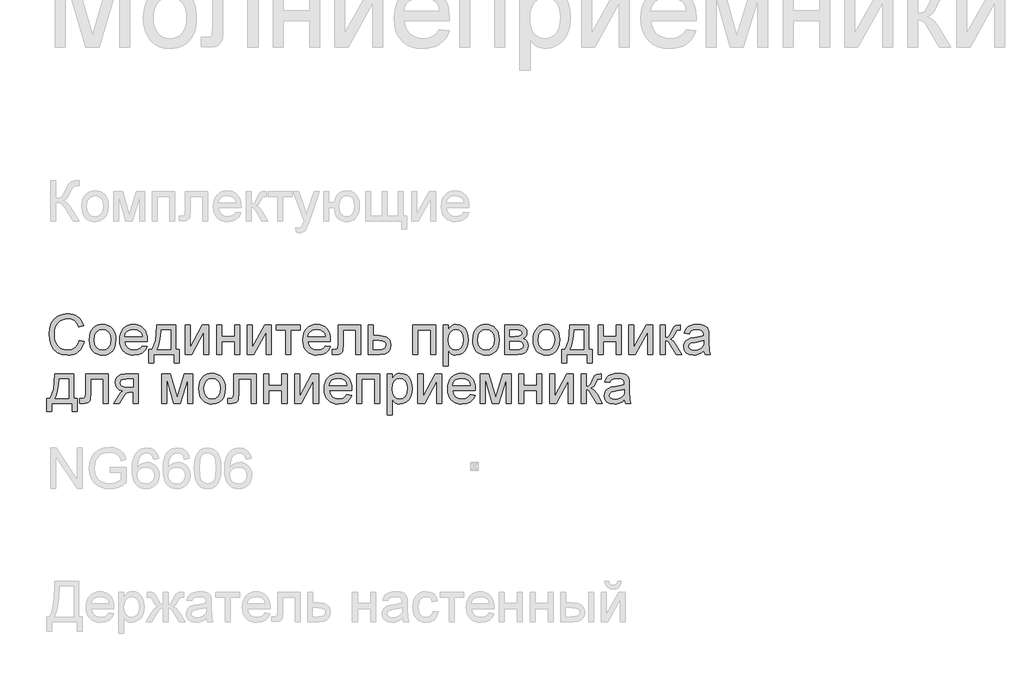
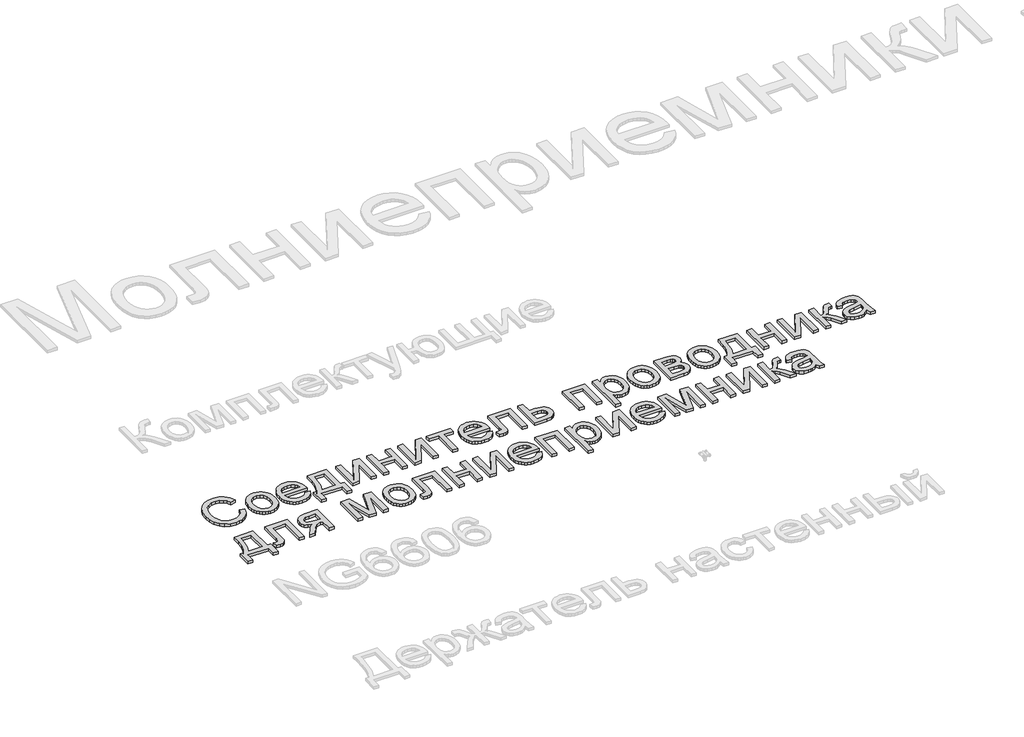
# One storey, part 60 of 124: 1 proxy.
"""IFC4 building model written with IfcOpenShell, lengths in millimetres."""

import ifcopenshell
import ifcopenshell.guid

model = None  # the IFC model being written
_history = None  # IfcOwnerHistory: only IFC2X3 demands one
_inside = {}  # id of a spatial element -> (the spatial element, [elements in it])
_under = {}  # id of a project, library or spatial element -> (it, [spatial elements below it])
_declared = {}  # id of a project -> (the project, [libraries it declares])
_typed = {}  # id of a type object -> (the type object, [elements of that type])
_made_of = {}  # id of a material, layer set ... -> (it, [elements and type objects made of it])


def new_model(schema):
    """Start an empty IFC model of exactly this schema.

    Asked for "IFC4X3", IfcOpenShell would pick the latest addendum, in which some entities
    have other attributes; the version numbers below select the first issue.
    IFC2X3 requires an IfcOwnerHistory on every rooted entity: one is made here for all.
    """
    global model, _history
    if schema == "IFC4X3":
        model = ifcopenshell.file(schema_version=(4, 3, 0, 0))
    else:
        model = ifcopenshell.file(schema=schema)
    _inside.clear()
    _under.clear()
    _declared.clear()
    _typed.clear()
    _made_of.clear()
    _history = None
    if model.schema == "IFC2X3":
        org = make("IfcOrganization", Name="unknown")
        user = make(
            "IfcPersonAndOrganization",
            ThePerson=make("IfcPerson", FamilyName="unknown"),
            TheOrganization=org,
        )
        app = make(
            "IfcApplication",
            ApplicationDeveloper=org,
            Version="unknown",
            ApplicationFullName="unknown",
            ApplicationIdentifier="unknown",
        )
        _history = make(
            "IfcOwnerHistory",
            OwningUser=user,
            OwningApplication=app,
            ChangeAction="ADDED",
            CreationDate=0,
        )
    return model


def make(cls, **values):
    """One entity of the class cls with the attributes given. An attribute that is None is left unset."""
    return model.create_entity(
        cls, **{name: value for name, value in values.items() if value is not None}
    )


def rooted(cls, **values):
    """An entity with a GlobalId (a new one), such as an element, a storey or a relation."""
    return make(cls, GlobalId=ifcopenshell.guid.new(), OwnerHistory=_history, **values)


def si_unit(unit_type, name, prefix=None):
    """IfcSIUnit, for example si_unit("LENGTHUNIT", "METRE", prefix="MILLI")."""
    return make("IfcSIUnit", UnitType=unit_type, Prefix=prefix, Name=name)


def assignment(units):
    """IfcUnitAssignment: the units of a project."""
    return None if units is None else make("IfcUnitAssignment", Units=units)


def point(xyz):
    """IfcCartesianPoint."""
    return None if xyz is None else make("IfcCartesianPoint", Coordinates=xyz)


def direction(xyz):
    """IfcDirection."""
    return None if xyz is None else make("IfcDirection", DirectionRatios=xyz)


def frame(location, z_axis=None, x_axis=None):
    """IfcAxis2Placement3D, a coordinate frame: its origin and axes. An axis left out is left unset."""
    return make(
        "IfcAxis2Placement3D",
        Location=point(location),
        Axis=direction(z_axis),
        RefDirection=direction(x_axis),
    )


def origin():
    """The frame at (0, 0, 0) with its axes left unset."""
    return frame((0.0, 0.0, 0.0))


def origin_with_axes():
    """The frame at (0, 0, 0) with the z axis (0, 0, 1) and the x axis (1, 0, 0) written out."""
    return frame((0.0, 0.0, 0.0), z_axis=(0.0, 0.0, 1.0), x_axis=(1.0, 0.0, 0.0))


def place(relative_to, where):
    """IfcLocalPlacement: puts the frame where relative to a parent placement (None: the world)."""
    return make(
        "IfcLocalPlacement", PlacementRelTo=relative_to, RelativePlacement=where
    )


def context(
    kind, dimensions, precision=None, world=None, true_north=None, identifier=None
):
    """IfcGeometricRepresentationContext, for example the 3D "Model" context."""
    return make(
        "IfcGeometricRepresentationContext",
        ContextIdentifier=identifier,
        ContextType=kind,
        CoordinateSpaceDimension=dimensions,
        Precision=precision,
        WorldCoordinateSystem=world,
        TrueNorth=true_north,
    )


def project(units=None, contexts=None):
    """IfcProject with its units and contexts."""
    return rooted(
        "IfcProject",
        Name="project",
        RepresentationContexts=contexts,
        UnitsInContext=assignment(units),
    )


def spatial(cls, under=None, at=None, **own):
    """A site, building, storey or space (cls), placed at a placement, below another one or the project."""
    s = rooted(cls, ObjectPlacement=at, **own)
    if under is not None:
        _under.setdefault(under.id(), (under, []))[1].append(s)
    return s


def polyline(points):
    """IfcPolyline through the points."""
    return make("IfcPolyline", Points=[point(p) for p in points])


def outline(outer, holes=None, kind="AREA"):
    """IfcArbitraryClosedProfileDef: a profile drawn as a closed curve; with holes, ...WithVoids."""
    if holes is None:
        return make("IfcArbitraryClosedProfileDef", ProfileType=kind, OuterCurve=outer)
    return make(
        "IfcArbitraryProfileDefWithVoids",
        ProfileType=kind,
        OuterCurve=outer,
        InnerCurves=holes,
    )


def extrude(swept, where, along, depth):
    """IfcExtrudedAreaSolid: the profile swept, set in the frame where, extruded along a direction by depth."""
    return make(
        "IfcExtrudedAreaSolid",
        SweptArea=swept,
        Position=where,
        ExtrudedDirection=direction(along),
        Depth=depth,
    )


def shape(context_of_items, identifier, shape_type, items):
    """IfcShapeRepresentation: the items that make up one representation, for example the "Body"."""
    return make(
        "IfcShapeRepresentation",
        ContextOfItems=context_of_items,
        RepresentationIdentifier=identifier,
        RepresentationType=shape_type,
        Items=items,
    )


def made_of(thing, what):
    """Note that an element or type object is made of a material, layer set ...; save() writes the relation."""
    if what is not None:
        _made_of.setdefault(what.id(), (what, []))[1].append(thing)
    return thing


def element(
    cls,
    number,
    at=None,
    inside=None,
    cuts=None,
    type_object=None,
    material=None,
    context=None,
    identifier="Body",
    shape_type=None,
    held_by="IfcProductDefinitionShape",
    body=None,
    shapes=None,
    **own,
):
    """One element of the class cls, such as IfcWall. Its Tag is "e" and its number.

    at: its placement. inside: the storey or other place that contains it. cuts: it is an
    opening in that element (IfcRelVoidsElement). A single representation is given by context,
    identifier, shape_type and body (its items); several are given by shapes. held_by: the class
    of the entity that holds the representations. save() writes the other relations.
    """
    e = rooted(cls, Tag="e%d" % number, ObjectPlacement=at, **own)
    if body is not None:
        shapes = [shape(context, identifier, shape_type, body)]
    if shapes is not None:
        e.Representation = make(held_by, Representations=shapes)
    if inside is not None:
        _inside.setdefault(inside.id(), (inside, []))[1].append(e)
    if cuts is not None:
        rooted(
            "IfcRelVoidsElement", RelatingBuildingElement=cuts, RelatedOpeningElement=e
        )
    if type_object is not None:
        _typed.setdefault(type_object.id(), (type_object, []))[1].append(e)
    return made_of(e, material)


def aggregate(whole, parts):
    """IfcRelAggregates: a whole, such as a stair, and the parts it consists of."""
    return rooted("IfcRelAggregates", RelatingObject=whole, RelatedObjects=parts)


def save(model, path):
    """Write the relations noted so far, then the file.

    IfcRelAggregates (storeys below a building ...), IfcRelContainedInSpatialStructure (elements
    in a storey), IfcRelDefinesByType, IfcRelAssociatesMaterial and IfcRelDeclares: one each for
    every whole, place, type object, material and project.
    """
    for whole, parts in _under.values():
        aggregate(whole, parts)
    for where, things in _inside.values():
        rooted(
            "IfcRelContainedInSpatialStructure",
            RelatedElements=things,
            RelatingStructure=where,
        )
    for kind, things in _typed.values():
        rooted("IfcRelDefinesByType", RelatedObjects=things, RelatingType=kind)
    for what, things in _made_of.values():
        rooted("IfcRelAssociatesMaterial", RelatedObjects=things, RelatingMaterial=what)
    for by, libraries in _declared.values():
        rooted("IfcRelDeclares", RelatingContext=by, RelatedDefinitions=libraries)
    model.write(path)


model = new_model("IFC4")

# Units and contexts
model_context = context("Model", 3, world=origin())
ifc_project = project(units=[si_unit("LENGTHUNIT", "METRE", prefix="MILLI")], contexts=[model_context])

# Site, building, storey
site = spatial("IfcSite", under=ifc_project)
building = spatial("IfcBuilding", under=site)
storey = spatial("IfcBuildingStorey", under=building, Name="Этаж 01", Elevation=0.0)

# Proxy
placement = place(None, origin())
element("IfcBuildingElementProxy", 1, Name="300", ObjectType="300", at=placement, inside=storey, context=model_context, shape_type="SweptSolid", body=[
    extrude(outline(polyline([(1511.7220969, -50967.371125), (1549.3932132, -50977.0832097), (1541.9390043, -51000.510395), (1532.0107889, -51020.9807288), (1519.6085672, -51038.494211), (1504.732339, -51053.0508417), (1487.7177967, -51064.494271), (1468.9006327, -51072.6681491), (1448.2808468, -51077.5724759), (1425.8584392, -51079.2072515), (1382.1632553, -51074.2592387), (1347.4627861, -51059.4152002), (1320.8649178, -51035.1901708), (1301.4775367, -51002.0991854), (1289.6409335, -50963.1956644), (1285.6953991, -50921.5330284), (1290.1559683, -50877.5895241), (1303.5376758, -50839.6424963), (1325.141546, -50808.8967585), (1354.268603, -50786.5571244), (1388.8127223, -50772.9546876), (1426.6677796, -50768.420542), (1467.9717306, -50774.2882598), (1485.9404668, -50781.6229071), (1502.1203768, -50791.8914133), (1516.2447462, -50804.8224654), (1528.0468605, -50820.1447505), (1544.6843237, -50857.9630196), (1507.0132074, -50866.9393403), (1493.9533965, -50839.4677523), (1476.1111198, -50820.6229971), (1453.2656479, -50809.724493), (1425.1962517, -50806.0916583), (1392.8410302, -50810.1199662), (1366.261556, -50822.2048897), (1346.0924256, -50841.0772361), (1332.9682355, -50865.4678123), (1325.7669454, -50893.0405679), (1323.3665154, -50921.459452), (1326.2084038, -50956.2610888), (1334.734069, -50986.353836), (1349.2654078, -51010.5880624), (1370.124317, -51027.8141368), (1395.1310956, -51038.1056356), (1422.1060429, -51041.5361352), (1453.5507564, -51036.8640339), (1479.7531515, -51022.8477299), (1499.5360058, -50999.634376), (1511.7220969, -50967.371125)])), origin_with_axes(), (0.0, 0.0, 1.0), 20.0),
    extrude(outline(polyline([(1587.0643295, -50963.8394579), (1589.1014761, -50935.1768519), (1595.2129157, -50910.4781745), (1605.3986485, -50889.7434255), (1619.6586743, -50872.972605), (1634.0152692, -50862.2534434), (1649.8617861, -50854.5968994), (1667.1982251, -50850.002973), (1686.0245862, -50848.4716642), (1706.8076197, -50850.336366), (1725.5994919, -50855.9304716), (1742.4002027, -50865.2539809), (1757.2097523, -50878.306894), (1769.2969751, -50894.6477523), (1777.9307057, -50913.8350977), (1783.110944, -50935.8689299), (1784.8376901, -50960.7492491), (1781.7842696, -50998.8066415), (1772.6240079, -51027.7773486), (1757.6236195, -51049.4731893), (1737.049819, -51065.7059823), (1712.6132574, -51075.8319342), (1686.0245862, -51079.2072515), (1664.9380501, -51077.3494475), (1645.971434, -51071.7760352), (1629.1247379, -51062.4870149), (1614.3979618, -51049.4823863), (1602.4394977, -51032.9828788), (1593.8977376, -51013.2092216), (1588.7726815, -50990.1614146), (1587.0643295, -50963.8394579)]), holes=[polyline([(1624.7354458, -50963.7658815), (1629.0948475, -50997.8593454), (1642.1730524, -51022.1487541), (1661.8547391, -51036.6892899), (1686.0245862, -51041.5361352), (1710.0840687, -51036.6616988), (1729.7289673, -51022.0383895), (1742.8071722, -50997.427084), (1747.1665738, -50962.5886591), (1742.779581, -50929.4884766), (1729.6186027, -50905.5301616), (1709.946113, -50890.9896258), (1686.0245862, -50886.1427805), (1661.8547391, -50890.9712317), (1642.1730524, -50905.4565852), (1629.0948475, -50929.6908117), (1624.7354458, -50963.7658815)])]), origin_with_axes(), (0.0, 0.0, 1.0), 20.0),
    extrude(outline(polyline([(1982.1695923, -51008.5739085), (2019.1049447, -51013.282798), (2005.7968135, -51041.1130709), (1984.5608253, -51061.9167978), (1955.8752267, -51074.8846381), (1920.2182644, -51079.2072515), (1896.8439621, -51077.3425497), (1876.0172426, -51071.7484441), (1857.738106, -51062.4249348), (1842.0065522, -51049.3720217), (1829.3560101, -51032.9529884), (1820.3199086, -51013.5311184), (1814.8982477, -50991.1064115), (1813.0910274, -50965.6788678), (1814.9166418, -50939.3891007), (1820.393485, -50916.2171336), (1829.521557, -50896.1629663), (1842.3008578, -50879.226599), (1857.9910249, -50865.771315), (1875.8516957, -50856.1603979), (1895.8828704, -50850.3938476), (1918.0845488, -50848.4716642), (1939.5711566, -50850.3892491), (1959.0022237, -50856.1420038), (1976.3777502, -50865.7299283), (1991.697736, -50879.1530226), (2004.2034246, -50896.0526017), (2013.1360593, -50916.0699808), (2018.4956401, -50939.2051598), (2020.282167, -50965.4581386), (2020.0614379, -50975.6116817), (1850.7621437, -50975.6116817), (1857.282852, -51003.8098366), (1872.4303932, -51024.5399871), (1894.2917807, -51037.2870982), (1920.9540284, -51041.5361352), (1941.0035971, -51039.5679666), (1957.8893807, -51033.6634605), (1971.6113791, -51023.4547352), (1982.1695923, -51008.5739085)]), holes=[polyline([(1850.7621437, -50937.9405654), (1982.6110507, -50937.9405654), (1977.5158851, -50918.0381495), (1967.5278889, -50903.8011162), (1945.5653338, -50890.5573644), (1917.937396, -50886.1427805), (1892.5443413, -50889.6652506), (1871.5474764, -50900.2326609), (1856.9517582, -50916.7045772), (1850.7621437, -50937.9405654)])]), origin_with_axes(), (0.0, 0.0, 1.0), 20.0),
    extrude(outline(polyline([(2090.9155101, -50853.1805537), (2232.1821963, -50853.1805537), (2232.1821963, -51036.8272457), (2260.4355335, -51036.8272457), (2260.4355335, -51135.713926), (2222.7644172, -51135.713926), (2222.7644172, -51074.498362), (2067.3710624, -51074.498362), (2067.3710624, -51135.713926), (2029.6999461, -51135.713926), (2029.6999461, -51036.8272457), (2053.2443938, -51036.8272457), (2070.3601036, -51005.897567), (2082.3438596, -50964.979892), (2089.1956618, -50914.074221), (2090.9155101, -50853.1805537)]), holes=[polyline([(2123.8777369, -50890.85167), (2120.7875281, -50936.9748752), (2115.048569, -50976.6785395), (2106.6608595, -51009.962663), (2095.6243997, -51036.8272457), (2194.51108, -51036.8272457), (2194.51108, -50890.85167), (2123.8777369, -50890.85167)])]), origin_with_axes(), (0.0, 0.0, 1.0), 20.0),
    extrude(outline(polyline([(2302.8155393, -50853.1805537), (2340.4866556, -50853.1805537), (2340.4866556, -51021.9648131), (2433.0457656, -50853.1805537), (2481.7533418, -50853.1805537), (2481.7533418, -51074.498362), (2444.0822255, -51074.498362), (2444.0822255, -50906.7441722), (2352.1117267, -51074.498362), (2302.8155393, -51074.498362), (2302.8155393, -50853.1805537)])), origin_with_axes(), (0.0, 0.0, 1.0), 20.0),
    extrude(outline(polyline([(2538.2600163, -50853.1805537), (2575.9311326, -50853.1805537), (2575.9311326, -50937.9405654), (2674.8178129, -50937.9405654), (2674.8178129, -50853.1805537), (2712.4889292, -50853.1805537), (2712.4889292, -51074.498362), (2674.8178129, -51074.498362), (2674.8178129, -50975.6116817), (2575.9311326, -50975.6116817), (2575.9311326, -51074.498362), (2538.2600163, -51074.498362), (2538.2600163, -50853.1805537)])), origin_with_axes(), (0.0, 0.0, 1.0), 20.0),
    extrude(outline(polyline([(2768.9956036, -50853.1805537), (2806.6667199, -50853.1805537), (2806.6667199, -51021.9648131), (2899.2258299, -50853.1805537), (2947.9334061, -50853.1805537), (2947.9334061, -51074.498362), (2910.2622898, -51074.498362), (2910.2622898, -50906.7441722), (2818.291791, -51074.498362), (2768.9956036, -51074.498362), (2768.9956036, -50853.1805537)])), origin_with_axes(), (0.0, 0.0, 1.0), 20.0),
    extrude(outline(polyline([(2985.6045224, -50853.1805537), (3164.5423248, -50853.1805537), (3164.5423248, -50890.85167), (3093.9089818, -50890.85167), (3093.9089818, -51074.498362), (3056.2378655, -51074.498362), (3056.2378655, -50890.85167), (2985.6045224, -50890.85167), (2985.6045224, -50853.1805537)])), origin_with_axes(), (0.0, 0.0, 1.0), 20.0),
    extrude(outline(polyline([(3352.456448, -51008.5739085), (3389.3918003, -51013.282798), (3376.0836691, -51041.1130709), (3354.847681, -51061.9167978), (3326.1620824, -51074.8846381), (3290.50512, -51079.2072515), (3267.1308177, -51077.3425497), (3246.3040983, -51071.7484441), (3228.0249616, -51062.4249348), (3212.2934078, -51049.3720217), (3199.6428657, -51032.9529884), (3190.6067642, -51013.5311184), (3185.1851033, -50991.1064115), (3183.377883, -50965.6788678), (3185.2034974, -50939.3891007), (3190.6803406, -50916.2171336), (3199.8084126, -50896.1629663), (3212.5877134, -50879.226599), (3228.2778805, -50865.771315), (3246.1385514, -50856.1603979), (3266.169726, -50850.3938476), (3288.3714044, -50848.4716642), (3309.8580122, -50850.3892491), (3329.2890793, -50856.1420038), (3346.6646058, -50865.7299283), (3361.9845917, -50879.1530226), (3374.4902802, -50896.0526017), (3383.4229149, -50916.0699808), (3388.7824957, -50939.2051598), (3390.5690227, -50965.4581386), (3390.3482935, -50975.6116817), (3221.0489993, -50975.6116817), (3227.5697077, -51003.8098366), (3242.7172488, -51024.5399871), (3264.5786364, -51037.2870982), (3291.240884, -51041.5361352), (3311.2904527, -51039.5679666), (3328.1762363, -51033.6634605), (3341.8982347, -51023.4547352), (3352.456448, -51008.5739085)]), holes=[polyline([(3221.0489993, -50937.9405654), (3352.8979064, -50937.9405654), (3347.8027407, -50918.0381495), (3337.8147446, -50903.8011162), (3315.8521895, -50890.5573644), (3288.2242516, -50886.1427805), (3262.8311969, -50889.6652506), (3241.834332, -50900.2326609), (3227.2386139, -50916.7045772), (3221.0489993, -50937.9405654)])]), origin_with_axes(), (0.0, 0.0, 1.0), 20.0),
    extrude(outline(polyline([(3447.0756971, -50853.1805537), (3616.5957205, -50853.1805537), (3616.5957205, -51074.2776328), (3578.9246042, -51074.2776328), (3578.9246042, -50890.85167), (3484.7468134, -50890.85167), (3484.7468134, -50996.4338026), (3482.2084277, -51045.1413788), (3477.4535529, -51056.1686416), (3468.2657001, -51065.7059823), (3454.3229724, -51072.3002671), (3435.3034733, -51074.498362), (3404.6956913, -51072.5853756), (3404.6956913, -51036.8272457), (3421.5446867, -51036.8272457), (3438.5776231, -51034.5095891), (3445.38344, -51027.1519492), (3447.0756971, -50994.3000871), (3447.0756971, -50853.1805537)])), origin_with_axes(), (0.0, 0.0, 1.0), 20.0),
    extrude(outline(polyline([(3673.102395, -50853.1805537), (3710.7735113, -50853.1805537), (3710.7735113, -50933.2316759), (3754.1835867, -50933.2316759), (3791.8179148, -50937.9497624), (3806.965456, -50943.8473707), (3819.6665819, -50952.1040222), (3829.7097603, -50962.4346085), (3836.8834592, -50974.554021), (3842.6224184, -51004.1593245), (3837.7387849, -51031.1158777), (3823.0878844, -51053.8601821), (3811.8559872, -51062.8893858), (3797.6948297, -51069.338817), (3760.5847334, -51074.498362), (3673.102395, -51074.498362), (3673.102395, -50853.1805537)]), holes=[polyline([(3710.7735113, -51036.8272457), (3745.94303, -51036.8272457), (3773.230677, -51034.84988), (3791.3764564, -51028.9177828), (3801.5575906, -51018.7918309), (3804.951302, -51004.2329009), (3802.4405074, -50991.9272482), (3794.9081236, -50981.0563352), (3778.767301, -50973.4411779), (3750.4311904, -50970.9027922), (3710.7735113, -50970.9027922), (3710.7735113, -51036.8272457)])]), origin_with_axes(), (0.0, 0.0, 1.0), 20.0),
    extrude(outline(polyline([(4007.4335522, -50853.1805537), (4176.9535756, -50853.1805537), (4176.9535756, -51074.498362), (4139.2824593, -51074.498362), (4139.2824593, -50890.85167), (4045.1046685, -50890.85167), (4045.1046685, -51074.498362), (4007.4335522, -51074.498362), (4007.4335522, -50853.1805537)])), origin_with_axes(), (0.0, 0.0, 1.0), 20.0),
    extrude(outline(polyline([(4233.46025, -51159.2583737), (4233.46025, -50853.1805537), (4271.1313663, -50853.1805537), (4271.1313663, -50890.115906), (4283.418625, -50871.8965502), (4297.1774116, -50858.8827246), (4313.2170666, -50851.0744293), (4332.3469303, -50848.4716642), (4357.8227585, -50852.1136959), (4380.0980133, -50863.0397912), (4398.2345957, -50880.5877623), (4411.2944065, -50904.0954218), (4419.1854753, -50931.8521184), (4421.8158316, -50962.1472007), (4418.8451845, -50994.3644664), (4409.9332431, -51023.1788237), (4395.3651161, -51047.1279416), (4375.425912, -51064.7494891), (4352.203361, -51075.5928109), (4327.7851936, -51079.2072515), (4310.4671487, -51076.7884274), (4295.0069078, -51069.5319551), (4281.772353, -51058.5782687), (4271.1313663, -51045.0678024), (4271.1313663, -51159.2583737), (4233.46025, -51159.2583737)]), holes=[polyline([(4271.1313663, -50965.6052914), (4275.2056594, -50999.3768586), (4287.4285387, -51022.9948827), (4305.4639535, -51036.9008221), (4326.9758532, -51041.5361352), (4348.8372408, -51036.7352752), (4367.3325081, -51022.3326951), (4379.9416635, -50997.8501483), (4384.1447153, -50962.8093883), (4380.042831, -50929.2217621), (4367.7371783, -50905.2726442), (4349.7293546, -50890.9252464), (4328.5209576, -50886.1427805), (4307.2297871, -50891.2287491), (4288.5321847, -50906.4866548), (4275.4815709, -50931.4382511), (4271.1313663, -50965.6052914)])]), origin_with_axes(), (0.0, 0.0, 1.0), 20.0),
    extrude(outline(polyline([(4454.7780583, -50963.8394579), (4456.8152049, -50935.1768519), (4462.9266445, -50910.4781745), (4473.1123773, -50889.7434255), (4487.3724031, -50872.972605), (4501.728998, -50862.2534434), (4517.5755149, -50854.5968994), (4534.9119539, -50850.002973), (4553.738315, -50848.4716642), (4574.5213485, -50850.336366), (4593.3132207, -50855.9304716), (4610.1139315, -50865.2539809), (4624.9234811, -50878.306894), (4637.0107039, -50894.6477523), (4645.6444345, -50913.8350977), (4650.8246728, -50935.8689299), (4652.5514189, -50960.7492491), (4649.4979984, -50998.8066415), (4640.3377367, -51027.7773486), (4625.3373483, -51049.4731893), (4604.7635478, -51065.7059823), (4580.3269862, -51075.8319342), (4553.738315, -51079.2072515), (4532.6517789, -51077.3494475), (4513.6851628, -51071.7760352), (4496.8384667, -51062.4870149), (4482.1116906, -51049.4823863), (4470.1532265, -51032.9828788), (4461.6114664, -51013.2092216), (4456.4864103, -50990.1614146), (4454.7780583, -50963.8394579)]), holes=[polyline([(4492.4491746, -50963.7658815), (4496.8085763, -50997.8593454), (4509.8867812, -51022.1487541), (4529.5684679, -51036.6892899), (4553.738315, -51041.5361352), (4577.7977975, -51036.6616988), (4597.4426961, -51022.0383895), (4610.520901, -50997.427084), (4614.8803026, -50962.5886591), (4610.4933098, -50929.4884766), (4597.3323315, -50905.5301616), (4577.6598418, -50890.9896258), (4553.738315, -50886.1427805), (4529.5684679, -50890.9712317), (4509.8867812, -50905.4565852), (4496.8085763, -50929.6908117), (4492.4491746, -50963.7658815)])]), origin_with_axes(), (0.0, 0.0, 1.0), 20.0),
    extrude(outline(polyline([(4694.9314248, -50853.1805537), (4777.9256029, -50853.1805537), (4804.6062446, -50854.4405495), (4823.4326057, -50858.220537), (4837.2833628, -50865.3574477), (4849.0371926, -50876.6882132), (4857.0662171, -50891.4494783), (4859.7425586, -50908.8778878), (4858.1238778, -50922.9217829), (4853.2678355, -50935.0342976), (4845.1560375, -50945.2706141), (4833.7700898, -50953.6859148), (4847.7128174, -50961.5126042), (4859.080371, -50974.1033655), (4866.640346, -50990.4649173), (4869.1603377, -51009.6039781), (4862.7775851, -51038.3171678), (4847.6024528, -51058.5322834), (4823.5797585, -51070.5068424), (4790.6543199, -51074.498362), (4694.9314248, -51074.498362), (4694.9314248, -50853.1805537)]), holes=[polyline([(4732.6025411, -51036.8272457), (4778.8085197, -51036.8272457), (4803.9900423, -51035.1257915), (4819.7905739, -51030.0214288), (4828.2702539, -51020.7416055), (4831.4892214, -51006.5137693), (4829.8797377, -50997.0867932), (4825.0512865, -50988.3771869), (4817.6384643, -50981.562173), (4808.2758675, -50977.8189737), (4775.1296997, -50975.6116817), (4732.6025411, -50975.6116817), (4732.6025411, -51036.8272457)]), polyline([(4732.6025411, -50937.9405654), (4769.832199, -50937.9405654), (4800.5503456, -50936.027579), (4815.4863546, -50928.3756335), (4820.4251704, -50922.0480632), (4822.0714423, -50914.5432705), (4819.1835687, -50903.3044755), (4810.5199477, -50896.0755943), (4794.8665688, -50892.1576511), (4771.0094214, -50890.85167), (4732.6025411, -50890.85167), (4732.6025411, -50937.9405654)])]), origin_with_axes(), (0.0, 0.0, 1.0), 20.0),
    extrude(outline(polyline([(4906.831454, -50963.8394579), (4908.8686006, -50935.1768519), (4914.9800402, -50910.4781745), (4925.1657729, -50889.7434255), (4939.4257988, -50872.972605), (4953.7823936, -50862.2534434), (4969.6289106, -50854.5968994), (4986.9653496, -50850.002973), (5005.7917107, -50848.4716642), (5026.5747442, -50850.336366), (5045.3666163, -50855.9304716), (5062.1673272, -50865.2539809), (5076.9768768, -50878.306894), (5089.0640996, -50894.6477523), (5097.6978302, -50913.8350977), (5102.8780685, -50935.8689299), (5104.6048146, -50960.7492491), (5101.5513941, -50998.8066415), (5092.3911324, -51027.7773486), (5077.390744, -51049.4731893), (5056.8169434, -51065.7059823), (5032.3803819, -51075.8319342), (5005.7917107, -51079.2072515), (4984.7051746, -51077.3494475), (4965.7385585, -51071.7760352), (4948.8918624, -51062.4870149), (4934.1650862, -51049.4823863), (4922.2066221, -51032.9828788), (4913.6648621, -51013.2092216), (4908.539806, -50990.1614146), (4906.831454, -50963.8394579)]), holes=[polyline([(4944.5025703, -50963.7658815), (4948.861972, -50997.8593454), (4961.9401769, -51022.1487541), (4981.6218636, -51036.6892899), (5005.7917107, -51041.5361352), (5029.8511932, -51036.6616988), (5049.4960917, -51022.0383895), (5062.5742967, -50997.427084), (5066.9336983, -50962.5886591), (5062.5467055, -50929.4884766), (5049.3857271, -50905.5301616), (5029.7132374, -50890.9896258), (5005.7917107, -50886.1427805), (4981.6218636, -50890.9712317), (4961.9401769, -50905.4565852), (4948.861972, -50929.6908117), (4944.5025703, -50963.7658815)])]), origin_with_axes(), (0.0, 0.0, 1.0), 20.0),
    extrude(outline(polyline([(5179.9470472, -50853.1805537), (5321.2137334, -50853.1805537), (5321.2137334, -51036.8272457), (5349.4670706, -51036.8272457), (5349.4670706, -51135.713926), (5311.7959543, -51135.713926), (5311.7959543, -51074.498362), (5156.4025995, -51074.498362), (5156.4025995, -51135.713926), (5118.7314832, -51135.713926), (5118.7314832, -51036.8272457), (5142.2759309, -51036.8272457), (5159.3916407, -51005.897567), (5171.3753967, -50964.979892), (5178.2271989, -50914.074221), (5179.9470472, -50853.1805537)]), holes=[polyline([(5212.909274, -50890.85167), (5209.8190652, -50936.9748752), (5204.0801061, -50976.6785395), (5195.6923966, -51009.962663), (5184.6559368, -51036.8272457), (5283.5426171, -51036.8272457), (5283.5426171, -50890.85167), (5212.909274, -50890.85167)])]), origin_with_axes(), (0.0, 0.0, 1.0), 20.0),
    extrude(outline(polyline([(5391.8470764, -50853.1805537), (5429.5181928, -50853.1805537), (5429.5181928, -50937.9405654), (5528.4048731, -50937.9405654), (5528.4048731, -50853.1805537), (5566.0759894, -50853.1805537), (5566.0759894, -51074.498362), (5528.4048731, -51074.498362), (5528.4048731, -50975.6116817), (5429.5181928, -50975.6116817), (5429.5181928, -51074.498362), (5391.8470764, -51074.498362), (5391.8470764, -50853.1805537)])), origin_with_axes(), (0.0, 0.0, 1.0), 20.0),
    extrude(outline(polyline([(5622.5826638, -50853.1805537), (5660.2537801, -50853.1805537), (5660.2537801, -51021.9648131), (5752.8128901, -50853.1805537), (5801.5204663, -50853.1805537), (5801.5204663, -51074.498362), (5763.84935, -51074.498362), (5763.84935, -50906.7441722), (5671.8788512, -51074.498362), (5622.5826638, -51074.498362), (5622.5826638, -50853.1805537)])), origin_with_axes(), (0.0, 0.0, 1.0), 20.0),
    extrude(outline(polyline([(5858.0271407, -50853.1805537), (5895.698257, -50853.1805537), (5895.698257, -50947.3583445), (5911.0205421, -50945.6660873), (5920.9349619, -50940.5893158), (5929.7089475, -50927.3455639), (5941.60993, -50901.1523659), (5958.7900192, -50867.1232813), (5973.9467574, -50856.0500333), (6001.5011189, -50853.1805537), (6008.711606, -50853.1805537), (6008.711606, -50891.0723992), (5998.5580629, -50890.85167), (5980.1639631, -50894.8247956), (5967.2145169, -50919.620042), (5952.0209905, -50946.4386395), (5930.720623, -50959.5720267), (5942.6583937, -50964.874126), (5954.4857999, -50974.2321242), (5977.8095184, -51005.1158177), (6018.129385, -51074.498362), (5975.3079208, -51074.498362), (5935.7973945, -51006.5873457), (5915.9317668, -50977.8557619), (5906.6427464, -50972.6410346), (5895.698257, -50970.9027922), (5895.698257, -51074.498362), (5858.0271407, -51074.498362), (5858.0271407, -50853.1805537)])), origin_with_axes(), (0.0, 0.0, 1.0), 20.0),
    extrude(outline(polyline([(6182.9405189, -51046.2450248), (6164.9418923, -51061.6776745), (6146.4098368, -51071.7760352), (6126.9212881, -51077.3494475), (6106.0531819, -51079.2072515), (6074.5716801, -51074.7374853), (6051.3491292, -51061.3281866), (6037.0293225, -51040.9659181), (6032.2560536, -51015.6372428), (6034.0586754, -51000.0206521), (6039.4665408, -50985.8388012), (6047.808265, -50973.6986953), (6058.4124635, -50964.2073398), (6084.7896026, -50951.8465048), (6117.3839473, -50946.1811221), (6155.9011922, -50940.2214338), (6182.7197897, -50933.2316759), (6182.9405189, -50924.8439664), (6180.3469508, -50908.0317592), (6172.5662466, -50897.0320875), (6155.1654282, -50888.8651072), (6130.9220048, -50886.1427805), (6108.481203, -50887.9545993), (6092.8094301, -50893.3900558), (6082.1224581, -50903.4424313), (6074.6360595, -50919.1050072), (6036.9649432, -50914.3961177), (6043.5040457, -50893.794726), (6053.2621156, -50877.6079182), (6067.1496609, -50865.228689), (6086.0771895, -50856.0500333), (6109.2261641, -50850.3662564), (6135.7780471, -50848.4716642), (6161.2446782, -50850.1455272), (6181.4322027, -50855.1671165), (6196.6533202, -50862.7178944), (6207.2207306, -50871.9793237), (6214.2288826, -50883.4296508), (6218.7722252, -50897.5471223), (6220.6116352, -50930.5093491), (6220.6116352, -50977.3775153), (6222.5246216, -51042.8237222), (6230.0294143, -51074.498362), (6192.3582979, -51074.498362), (6182.9405189, -51046.2450248)]), holes=[polyline([(6182.9405189, -50970.9027922), (6122.1664133, -50982.4542868), (6089.7560095, -50988.5611279), (6075.0775179, -50998.4939418), (6069.92717, -51012.9884924), (6072.7322702, -51024.1904992), (6081.1475708, -51033.3691549), (6094.9891309, -51039.4943902), (6114.0730094, -51041.5361352), (6134.3065191, -51039.282858), (6152.1855841, -51032.5230264), (6166.6801347, -51022.5626213), (6176.7601014, -51010.707624), (6181.2298676, -50998.4939418), (6182.7197897, -50981.57137), (6182.9405189, -50970.9027922)])]), origin_with_axes(), (0.0, 0.0, 1.0), 20.0),
    extrude(outline(polyline([(1328.0754049, -51219.1050072), (1469.3420911, -51219.1050072), (1469.3420911, -51402.7516992), (1497.5954283, -51402.7516992), (1497.5954283, -51501.6383795), (1459.924312, -51501.6383795), (1459.924312, -51440.4228155), (1304.5309572, -51440.4228155), (1304.5309572, -51501.6383795), (1266.8598409, -51501.6383795), (1266.8598409, -51402.7516992), (1290.4042886, -51402.7516992), (1307.5199984, -51371.8220205), (1319.5037544, -51330.9043456), (1326.3555566, -51279.9986745), (1328.0754049, -51219.1050072)]), holes=[polyline([(1361.0376317, -51256.7761235), (1357.9474229, -51302.8993287), (1352.2084638, -51342.602993), (1343.8207543, -51375.8871165), (1332.7842945, -51402.7516992), (1431.6709748, -51402.7516992), (1431.6709748, -51256.7761235), (1361.0376317, -51256.7761235)])]), origin_with_axes(), (0.0, 0.0, 1.0), 20.0),
    extrude(outline(polyline([(1558.8109923, -51219.1050072), (1728.3310157, -51219.1050072), (1728.3310157, -51440.2020863), (1690.6598994, -51440.2020863), (1690.6598994, -51256.7761235), (1596.4821086, -51256.7761235), (1596.4821086, -51362.3582562), (1593.9437228, -51411.0658323), (1589.188848, -51422.0930951), (1580.0009952, -51431.6304359), (1566.0582676, -51438.2247206), (1547.0387685, -51440.4228155), (1516.4309865, -51438.5098292), (1516.4309865, -51402.7516992), (1533.2799818, -51402.7516992), (1550.3129182, -51400.4340427), (1557.1187351, -51393.0764028), (1558.8109923, -51360.2245406), (1558.8109923, -51219.1050072)])), origin_with_axes(), (0.0, 0.0, 1.0), 20.0),
    extrude(outline(polyline([(1954.3577135, -51219.1050072), (1954.3577135, -51440.4228155), (1916.6865972, -51440.4228155), (1916.6865972, -51355.6628038), (1896.1587819, -51355.6628038), (1868.1997502, -51360.4452698), (1857.0345317, -51370.8747243), (1841.9329758, -51392.5981562), (1811.913805, -51440.4228155), (1768.3565768, -51440.4228155), (1806.1748459, -51379.9430155), (1822.8766884, -51358.2379778), (1838.2541558, -51348.5994695), (1812.5024162, -51340.7084007), (1794.402622, -51325.7172094), (1783.6972559, -51305.7780053), (1780.1288006, -51283.042898), (1785.003237, -51257.2543701), (1799.6265463, -51236.8369194), (1823.4836937, -51223.5379853), (1856.0596444, -51219.1050072), (1954.3577135, -51219.1050072)]), holes=[polyline([(1916.6865972, -51256.7761235), (1867.0225279, -51256.7761235), (1841.3719557, -51258.9558244), (1826.8130258, -51265.4949268), (1820.0531941, -51274.9586912), (1817.7999169, -51285.9123776), (1821.1200519, -51300.2689724), (1831.0804569, -51310.2293774), (1849.4837537, -51316.05111), (1878.1325641, -51317.9916875), (1916.6865972, -51317.9916875), (1916.6865972, -51256.7761235)])]), origin_with_axes(), (0.0, 0.0, 1.0), 20.0),
    extrude(outline(polyline([(2128.5866264, -51219.1050072), (2193.407434, -51219.1050072), (2243.3658089, -51396.2769761), (2297.223733, -51219.1050072), (2359.3222138, -51219.1050072), (2359.3222138, -51440.4228155), (2321.6510975, -51440.4228155), (2321.6510975, -51262.2207771), (2267.4988678, -51440.4228155), (2218.0555277, -51440.4228155), (2166.2577427, -51253.6859148), (2166.2577427, -51440.4228155), (2128.5866264, -51440.4228155), (2128.5866264, -51219.1050072)])), origin_with_axes(), (0.0, 0.0, 1.0), 20.0),
    extrude(outline(polyline([(2406.4111092, -51329.7639114), (2408.4482557, -51301.1013054), (2414.5596954, -51276.402628), (2424.7454281, -51255.667879), (2439.005454, -51238.8970586), (2453.3620488, -51228.1778969), (2469.2085658, -51220.5213529), (2486.5450048, -51215.9274265), (2505.3713659, -51214.3961177), (2526.1543994, -51216.2608196), (2544.9462715, -51221.8549252), (2561.7469824, -51231.1784345), (2576.556532, -51244.2313475), (2588.6437548, -51260.5722059), (2597.2774853, -51279.7595512), (2602.4577237, -51301.7933834), (2604.1844698, -51326.6737026), (2601.1310492, -51364.731095), (2591.9707876, -51393.7018022), (2576.9703992, -51415.3976428), (2556.3965986, -51431.6304359), (2531.9600371, -51441.7563878), (2505.3713659, -51445.1317051), (2484.2848298, -51443.273901), (2465.3182137, -51437.7004888), (2448.4715175, -51428.4114684), (2433.7447414, -51415.4068399), (2421.7862773, -51398.9073324), (2413.2445172, -51379.1336751), (2408.1194612, -51356.0858681), (2406.4111092, -51329.7639114)]), holes=[polyline([(2444.0822255, -51329.690335), (2448.4416271, -51363.7837989), (2461.5198321, -51388.0732076), (2481.2015188, -51402.6137435), (2505.3713659, -51407.4605888), (2529.4308484, -51402.5861523), (2549.0757469, -51387.962843), (2562.1539518, -51363.3515375), (2566.5133535, -51328.5131126), (2562.1263607, -51295.4129301), (2548.9653823, -51271.4546152), (2529.2928926, -51256.9140793), (2505.3713659, -51252.067234), (2481.2015188, -51256.8956852), (2461.5198321, -51271.3810388), (2448.4416271, -51295.6152652), (2444.0822255, -51329.690335)])]), origin_with_axes(), (0.0, 0.0, 1.0), 20.0),
    extrude(outline(polyline([(2665.4000338, -51219.1050072), (2834.9200572, -51219.1050072), (2834.9200572, -51440.2020863), (2797.2489409, -51440.2020863), (2797.2489409, -51256.7761235), (2703.0711501, -51256.7761235), (2703.0711501, -51362.3582562), (2700.5327643, -51411.0658323), (2695.7778895, -51422.0930951), (2686.5900367, -51431.6304359), (2672.6473091, -51438.2247206), (2653.6278099, -51440.4228155), (2623.0200279, -51438.5098292), (2623.0200279, -51402.7516992), (2639.8690233, -51402.7516992), (2656.9019597, -51400.4340427), (2663.7077766, -51393.0764028), (2665.4000338, -51360.2245406), (2665.4000338, -51219.1050072)])), origin_with_axes(), (0.0, 0.0, 1.0), 20.0),
    extrude(outline(polyline([(2891.4267316, -51219.1050072), (2929.0978479, -51219.1050072), (2929.0978479, -51303.8650189), (3027.9845282, -51303.8650189), (3027.9845282, -51219.1050072), (3065.6556445, -51219.1050072), (3065.6556445, -51440.4228155), (3027.9845282, -51440.4228155), (3027.9845282, -51341.5361352), (2929.0978479, -51341.5361352), (2929.0978479, -51440.4228155), (2891.4267316, -51440.4228155), (2891.4267316, -51219.1050072)])), origin_with_axes(), (0.0, 0.0, 1.0), 20.0),
    extrude(outline(polyline([(3122.162319, -51219.1050072), (3159.8334353, -51219.1050072), (3159.8334353, -51387.8892666), (3252.3925453, -51219.1050072), (3301.1001215, -51219.1050072), (3301.1001215, -51440.4228155), (3263.4290051, -51440.4228155), (3263.4290051, -51272.6686257), (3171.4585064, -51440.4228155), (3122.162319, -51440.4228155), (3122.162319, -51219.1050072)])), origin_with_axes(), (0.0, 0.0, 1.0), 20.0),
    extrude(outline(polyline([(3512.5586923, -51374.498362), (3549.4940446, -51379.2072515), (3536.1859134, -51407.0375245), (3514.9499253, -51427.8412513), (3486.2643267, -51440.8090916), (3450.6073643, -51445.1317051), (3427.233062, -51443.2670032), (3406.4063426, -51437.6728976), (3388.1272059, -51428.3493883), (3372.3956521, -51415.2964753), (3359.74511, -51398.877442), (3350.7090085, -51379.4555719), (3345.2873476, -51357.030865), (3343.4801273, -51331.6033214), (3345.3057417, -51305.3135543), (3350.7825849, -51282.1415871), (3359.9106569, -51262.0874199), (3372.6899577, -51245.1510525), (3388.3801248, -51231.6957685), (3406.2407957, -51222.0848514), (3426.2719703, -51216.3183011), (3448.4736487, -51214.3961177), (3469.9602565, -51216.3137026), (3489.3913236, -51222.0664573), (3506.7668501, -51231.6543818), (3522.086836, -51245.0774761), (3534.5925245, -51261.9770553), (3543.5251592, -51281.9944343), (3548.88474, -51305.1296133), (3550.671267, -51331.3825922), (3550.4505378, -51341.5361352), (3381.1512436, -51341.5361352), (3387.671952, -51369.7342902), (3402.8194931, -51390.4644406), (3424.6808807, -51403.2115517), (3451.3431283, -51407.4605888), (3471.392697, -51405.4924201), (3488.2784806, -51399.5879141), (3502.000479, -51389.3791887), (3512.5586923, -51374.498362)]), holes=[polyline([(3381.1512436, -51303.8650189), (3513.0001507, -51303.8650189), (3507.904985, -51283.962603), (3497.9169889, -51269.7255698), (3475.9544338, -51256.4818179), (3448.3264959, -51252.067234), (3422.9334412, -51255.5897041), (3401.9365763, -51266.1571144), (3387.3408582, -51282.6290308), (3381.1512436, -51303.8650189)])]), origin_with_axes(), (0.0, 0.0, 1.0), 20.0),
    extrude(outline(polyline([(3588.3423833, -51219.1050072), (3757.8624067, -51219.1050072), (3757.8624067, -51440.4228155), (3720.1912904, -51440.4228155), (3720.1912904, -51256.7761235), (3626.0134996, -51256.7761235), (3626.0134996, -51440.4228155), (3588.3423833, -51440.4228155), (3588.3423833, -51219.1050072)])), origin_with_axes(), (0.0, 0.0, 1.0), 20.0),
    extrude(outline(polyline([(3814.3690811, -51525.1828272), (3814.3690811, -51219.1050072), (3852.0401974, -51219.1050072), (3852.0401974, -51256.0403596), (3864.3274561, -51237.8210037), (3878.0862427, -51224.8071782), (3894.1258977, -51216.9988828), (3913.2557614, -51214.3961177), (3938.7315896, -51218.0381495), (3961.0068444, -51228.9642447), (3979.1434268, -51246.5122159), (3992.2032376, -51270.0198754), (4000.0943064, -51297.7765719), (4002.7246627, -51328.0716542), (3999.7540155, -51360.2889199), (3990.8420742, -51389.1032772), (3976.2739472, -51413.0523951), (3956.3347431, -51430.6739427), (3933.1121921, -51441.5172645), (3908.6940247, -51445.1317051), (3891.3759798, -51442.712881), (3875.9157389, -51435.4564086), (3862.6811841, -51424.5027222), (3852.0401974, -51410.9922559), (3852.0401974, -51525.1828272), (3814.3690811, -51525.1828272)]), holes=[polyline([(3852.0401974, -51331.529745), (3856.1144905, -51365.3013121), (3868.3373698, -51388.9193362), (3886.3727846, -51402.8252756), (3907.8846843, -51407.4605888), (3929.7460719, -51402.6597287), (3948.2413392, -51388.2571486), (3960.8504946, -51363.7746018), (3965.0535464, -51328.7338418), (3960.9516621, -51295.1462156), (3948.6460094, -51271.1970978), (3930.6381857, -51256.8496999), (3909.4297887, -51252.067234), (3888.1386182, -51257.1532026), (3869.4410158, -51272.4111083), (3856.390402, -51297.3627047), (3852.0401974, -51331.529745)])]), origin_with_axes(), (0.0, 0.0, 1.0), 20.0),
    extrude(outline(polyline([(4045.1046685, -51219.1050072), (4082.7757848, -51219.1050072), (4082.7757848, -51387.8892666), (4175.3348948, -51219.1050072), (4224.042471, -51219.1050072), (4224.042471, -51440.4228155), (4186.3713546, -51440.4228155), (4186.3713546, -51272.6686257), (4094.4008559, -51440.4228155), (4045.1046685, -51440.4228155), (4045.1046685, -51219.1050072)])), origin_with_axes(), (0.0, 0.0, 1.0), 20.0),
    extrude(outline(polyline([(4435.5010418, -51374.498362), (4472.4363941, -51379.2072515), (4459.1282629, -51407.0375245), (4437.8922748, -51427.8412513), (4409.2066762, -51440.8090916), (4373.5497138, -51445.1317051), (4350.1754115, -51443.2670032), (4329.3486921, -51437.6728976), (4311.0695554, -51428.3493883), (4295.3380016, -51415.2964753), (4282.6874595, -51398.877442), (4273.651358, -51379.4555719), (4268.2296971, -51357.030865), (4266.4224768, -51331.6033214), (4268.2480912, -51305.3135543), (4273.7249344, -51282.1415871), (4282.8530064, -51262.0874199), (4295.6323072, -51245.1510525), (4311.3224743, -51231.6957685), (4329.1831452, -51222.0848514), (4349.2143198, -51216.3183011), (4371.4159982, -51214.3961177), (4392.902606, -51216.3137026), (4412.3336731, -51222.0664573), (4429.7091996, -51231.6543818), (4445.0291855, -51245.0774761), (4457.534874, -51261.9770553), (4466.4675087, -51281.9944343), (4471.8270895, -51305.1296133), (4473.6136165, -51331.3825922), (4473.3928873, -51341.5361352), (4304.0935931, -51341.5361352), (4310.6143015, -51369.7342902), (4325.7618426, -51390.4644406), (4347.6232302, -51403.2115517), (4374.2854778, -51407.4605888), (4394.3350465, -51405.4924201), (4411.2208301, -51399.5879141), (4424.9428285, -51389.3791887), (4435.5010418, -51374.498362)]), holes=[polyline([(4304.0935931, -51303.8650189), (4435.9425002, -51303.8650189), (4430.8473345, -51283.962603), (4420.8593384, -51269.7255698), (4398.8967833, -51256.4818179), (4371.2688454, -51252.067234), (4345.8757907, -51255.5897041), (4324.8789258, -51266.1571144), (4310.2832077, -51282.6290308), (4304.0935931, -51303.8650189)])]), origin_with_axes(), (0.0, 0.0, 1.0), 20.0),
    extrude(outline(polyline([(4511.2847328, -51219.1050072), (4576.1055403, -51219.1050072), (4626.0639153, -51396.2769761), (4679.9218394, -51219.1050072), (4742.0203202, -51219.1050072), (4742.0203202, -51440.4228155), (4704.3492039, -51440.4228155), (4704.3492039, -51262.2207771), (4650.1969742, -51440.4228155), (4600.753634, -51440.4228155), (4548.9558491, -51253.6859148), (4548.9558491, -51440.4228155), (4511.2847328, -51440.4228155), (4511.2847328, -51219.1050072)])), origin_with_axes(), (0.0, 0.0, 1.0), 20.0),
    extrude(outline(polyline([(4798.5269946, -51219.1050072), (4836.1981109, -51219.1050072), (4836.1981109, -51303.8650189), (4935.0847912, -51303.8650189), (4935.0847912, -51219.1050072), (4972.7559075, -51219.1050072), (4972.7559075, -51440.4228155), (4935.0847912, -51440.4228155), (4935.0847912, -51341.5361352), (4836.1981109, -51341.5361352), (4836.1981109, -51440.4228155), (4798.5269946, -51440.4228155), (4798.5269946, -51219.1050072)])), origin_with_axes(), (0.0, 0.0, 1.0), 20.0),
    extrude(outline(polyline([(5029.262582, -51219.1050072), (5066.9336983, -51219.1050072), (5066.9336983, -51387.8892666), (5159.4928083, -51219.1050072), (5208.2003845, -51219.1050072), (5208.2003845, -51440.4228155), (5170.5292681, -51440.4228155), (5170.5292681, -51272.6686257), (5078.5587694, -51440.4228155), (5029.262582, -51440.4228155), (5029.262582, -51219.1050072)])), origin_with_axes(), (0.0, 0.0, 1.0), 20.0),
    extrude(outline(polyline([(5264.7070589, -51219.1050072), (5302.3781752, -51219.1050072), (5302.3781752, -51313.282798), (5317.7004603, -51311.5905408), (5327.6148801, -51306.5137693), (5336.3888657, -51293.2700175), (5348.2898482, -51267.0768194), (5365.4699374, -51233.0477349), (5380.6266756, -51221.9744868), (5408.181037, -51219.1050072), (5415.3915241, -51219.1050072), (5415.3915241, -51256.9968527), (5405.2379811, -51256.7761235), (5386.8438813, -51260.7492491), (5373.8944351, -51285.5444956), (5358.7009087, -51312.363093), (5337.4005412, -51325.4964802), (5349.3383119, -51330.7985795), (5361.165718, -51340.1565778), (5384.4894365, -51371.0402712), (5424.8093032, -51440.4228155), (5381.987839, -51440.4228155), (5342.4773127, -51372.5117992), (5322.611685, -51343.7802154), (5313.3226646, -51338.5654881), (5302.3781752, -51336.8272457), (5302.3781752, -51440.4228155), (5264.7070589, -51440.4228155), (5264.7070589, -51219.1050072)])), origin_with_axes(), (0.0, 0.0, 1.0), 20.0),
    extrude(outline(polyline([(5589.6204371, -51412.1694783), (5571.6218104, -51427.602128), (5553.0897549, -51437.7004888), (5533.6012062, -51443.273901), (5512.7331001, -51445.1317051), (5481.2515983, -51440.6619388), (5458.0290474, -51427.2526401), (5443.7092407, -51406.8903717), (5438.9359718, -51381.5616963), (5440.7385936, -51365.9451056), (5446.1464589, -51351.7632547), (5454.4881832, -51339.6231489), (5465.0923817, -51330.1317934), (5491.4695207, -51317.7709583), (5524.0638655, -51312.1055756), (5562.5811104, -51306.1458873), (5589.3997079, -51299.1561294), (5589.6204371, -51290.7684199), (5587.026869, -51273.9562127), (5579.2461648, -51262.9565411), (5561.8453464, -51254.7895608), (5537.6019229, -51252.067234), (5515.1611212, -51253.8790528), (5499.4893482, -51259.3145093), (5488.8023763, -51269.3668848), (5481.3159777, -51285.0294608), (5443.6448614, -51280.3205712), (5450.1839638, -51259.7191795), (5459.9420338, -51243.5323717), (5473.8295791, -51231.1531426), (5492.7571077, -51221.9744868), (5515.9060823, -51216.29071), (5542.4579653, -51214.3961177), (5567.9245964, -51216.0699808), (5588.1121209, -51221.09157), (5603.3332384, -51228.642348), (5613.9006487, -51237.9037772), (5620.9088007, -51249.3541043), (5625.4521434, -51263.4715759), (5627.2915534, -51296.4338026), (5627.2915534, -51343.3019688), (5629.2045397, -51408.7481758), (5636.7093324, -51440.4228155), (5599.0382161, -51440.4228155), (5589.6204371, -51412.1694783)]), holes=[polyline([(5589.6204371, -51336.8272457), (5528.8463314, -51348.3787403), (5496.4359277, -51354.4855815), (5481.7574361, -51364.4183953), (5476.6070881, -51378.9129459), (5479.4121883, -51390.1149527), (5487.827489, -51399.2936085), (5501.6690491, -51405.4188437), (5520.7529276, -51407.4605888), (5540.9864373, -51405.2073115), (5558.8655023, -51398.4474799), (5573.3600529, -51388.4870749), (5583.4400195, -51376.6320776), (5587.9097858, -51364.4183953), (5589.3997079, -51347.4958236), (5589.6204371, -51336.8272457)])]), origin_with_axes(), (0.0, 0.0, 1.0), 20.0),
])

save(model, "model.ifc")
